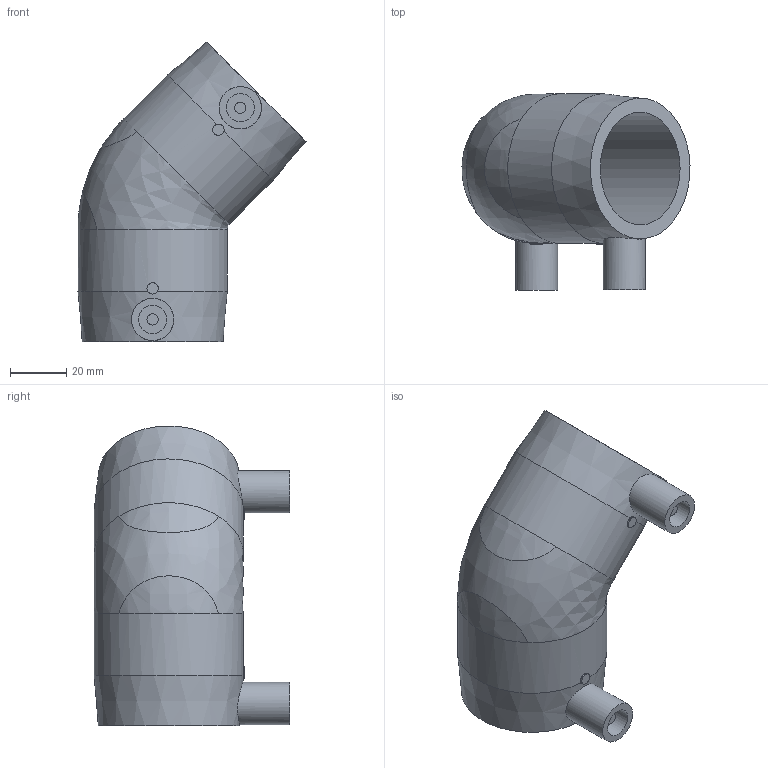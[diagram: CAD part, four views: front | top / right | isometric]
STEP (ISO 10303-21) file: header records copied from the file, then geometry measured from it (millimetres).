
FILE_DESCRIPTION(/* description */ ('Unknown'),/* implementation_level */ '2;1');
FILE_NAME(/* name */ 'GE4P040C',/* time_stamp */ '2021-04-26T09:09:45+02:00',/* author */ ('Unknown'),/* organization */ ('Unknown'),/* preprocessor_version */ 'ST-DEVELOPER v16.7',/* originating_system */ 'Solid Edge',/* authorisation */ 'Unknown');
FILE_SCHEMA (('AUTOMOTIVE_DESIGN {1 0 10303 214 3 1 1}'));
Length unit declared in the file: millimetre
Products named in the file (1): GE4P040C
Bounding box: 80.92 x 69.5 x 106.45 mm (x, y, z)
Volume: 101015.5 mm3; surface area: 34570.2 mm2
Topology: 1 solids, 1 shells, 34 faces, 78 edges, 52 vertices
Faces by surface type: cylinder 16, plane 12, bspline 4, cone 2
Full cylindrical faces by diameter (mm): 4 x4, 10 x2, 15 x2, 40 x2, 53 x2
Entity records: 1596 total; most frequent: CARTESIAN_POINT 1002, DIRECTION 112, ORIENTED_EDGE 90, EDGE_LOOP 57, FACE_BOUND 57, AXIS2_PLACEMENT_3D 56, EDGE_CURVE 45, VERTEX_POINT 38
